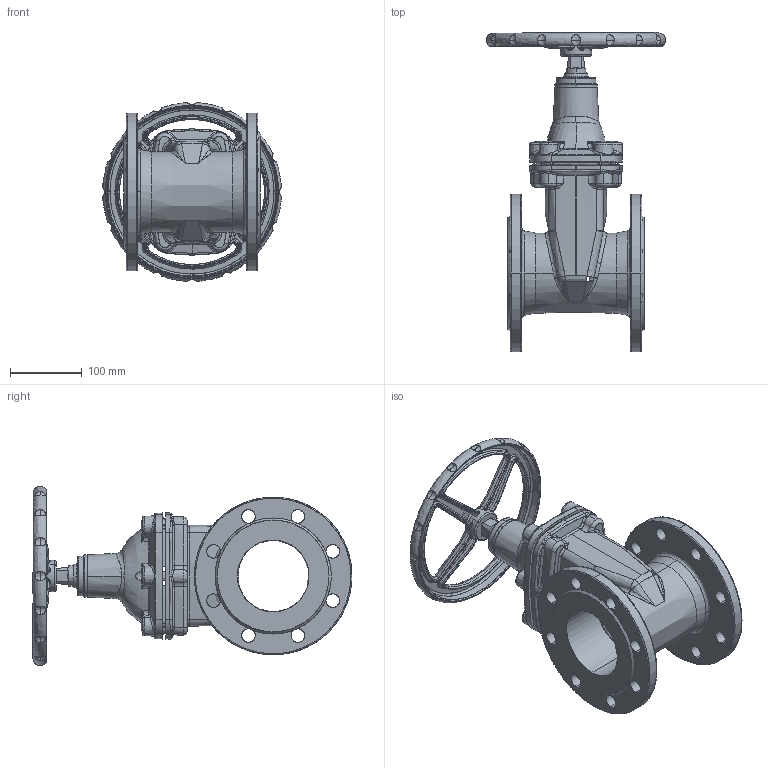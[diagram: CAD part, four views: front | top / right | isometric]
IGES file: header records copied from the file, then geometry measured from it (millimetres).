
Start section: SolidWorks IGES file using analytic representation for surfaces
Global section: file name: H:\BE BIBLIOTHEQUE 3D\BE SECTION 09 - ROBINETS ADDUCTION EAU\VO - Vanne opercule caoutchouc\VOC 4241C\JINMAO\CAO\VOC4241C-00\DN 100\VOC4241C-00EP0100.IGS; native system: SolidWorks 2020; preprocessor: SolidWorks 2020; author: k.gigout; date: 211117.162713; units: millimetre
Bounding box: 249.71 x 446.5 x 249.71 mm (x, y, z)
Surface area: 468875 mm2 (no closed solid volume)
Topology: 0 solids, 0 shells, 1188 faces, 14154 edges, 14127 vertices
Faces by surface type: bspline 925, revolution 263
